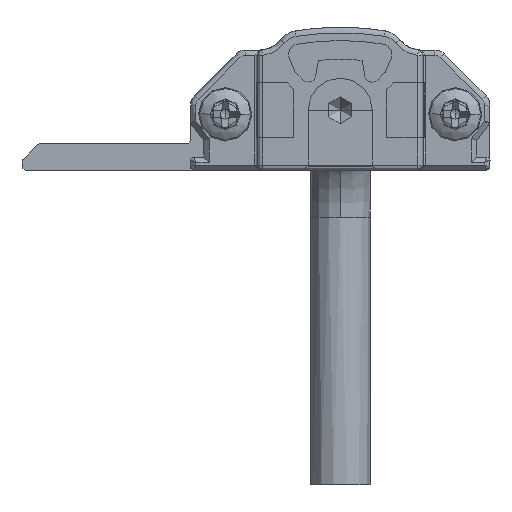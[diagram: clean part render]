
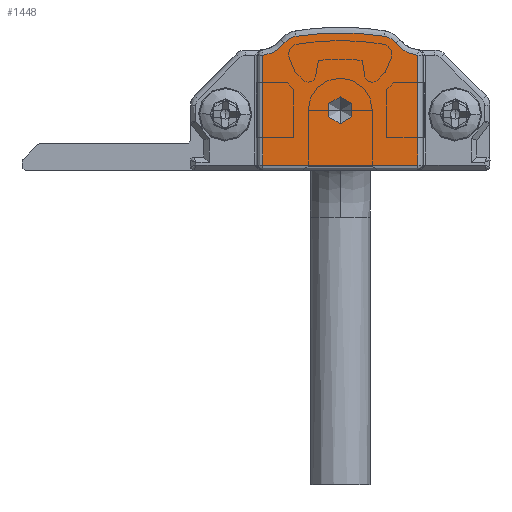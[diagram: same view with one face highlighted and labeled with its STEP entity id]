
A CAD part, front view. The second image highlights one B-rep face of the part: STEP entity #1448.
In plain terms, the highlighted planar face has unit normal (0, -1, 0).
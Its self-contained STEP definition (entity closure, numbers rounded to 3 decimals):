
#844 = VERTEX_POINT ( 'NONE', #20469 ) ;
#900 = CARTESIAN_POINT ( 'NONE',  ( 11.2, -15., 4.5 ) ) ;
#1364 = PLANE ( 'NONE',  #23888 ) ;
#1448 = ADVANCED_FACE ( 'NONE', ( #18206, #5942 ), #1364, .T. ) ;
#1827 = CARTESIAN_POINT ( 'NONE',  ( 5.4, -15., 0.4 ) ) ;
#2181 = CIRCLE ( 'NONE', #15655, 20.676 ) ;
#2867 = DIRECTION ( 'NONE',  ( 0., 0., -1. ) ) ;
#2911 = CARTESIAN_POINT ( 'NONE',  ( 15.332, -15., 9.541 ) ) ;
#3105 = CARTESIAN_POINT ( 'NONE',  ( 11.2, -15., 3.5 ) ) ;
#3145 = DIRECTION ( 'NONE',  ( 0., 0., -1. ) ) ;
#3223 = CARTESIAN_POINT ( 'NONE',  ( 7.892, -15., 10.034 ) ) ;
#3462 = ORIENTED_EDGE ( 'NONE', *, *, #12836, .T. ) ;
#3536 = AXIS2_PLACEMENT_3D ( 'NONE', #15463, #25404, #29779 ) ;
#3817 = CARTESIAN_POINT ( 'NONE',  ( 17., -15., 8.612 ) ) ;
#3879 = AXIS2_PLACEMENT_3D ( 'NONE', #27663, #23493, #18323 ) ;
#5010 = EDGE_CURVE ( 'NONE', #20503, #9175, #17039, .T. ) ;
#5942 = FACE_BOUND ( 'NONE', #6754, .T. ) ;
#6416 = CIRCLE ( 'NONE', #3879, 2.4 ) ;
#6535 = ORIENTED_EDGE ( 'NONE', *, *, #9378, .F. ) ;
#6697 = CARTESIAN_POINT ( 'NONE',  ( 8.1, -15., 8.75 ) ) ;
#6754 = EDGE_LOOP ( 'NONE', ( #8317, #6535 ) ) ;
#7434 = CARTESIAN_POINT ( 'NONE',  ( 17., -15., 0.4 ) ) ;
#8044 = DIRECTION ( 'NONE',  ( 0., 0., -1. ) ) ;
#8317 = ORIENTED_EDGE ( 'NONE', *, *, #5010, .F. ) ;
#8498 = DIRECTION ( 'NONE',  ( 0., -1., 0. ) ) ;
#9120 = CIRCLE ( 'NONE', #3536, 2.4 ) ;
#9175 = VERTEX_POINT ( 'NONE', #24821 ) ;
#9378 = EDGE_CURVE ( 'NONE', #9175, #20503, #23363, .T. ) ;
#9450 = DIRECTION ( 'NONE',  ( 0., -1., 0. ) ) ;
#11531 = VERTEX_POINT ( 'NONE', #18883 ) ;
#11575 = EDGE_CURVE ( 'NONE', #28607, #28270, #28984, .T. ) ;
#11607 = AXIS2_PLACEMENT_3D ( 'NONE', #14850, #9450, #17245 ) ;
#11727 = ORIENTED_EDGE ( 'NONE', *, *, #12073, .T. ) ;
#12021 = VERTEX_POINT ( 'NONE', #22541 ) ;
#12073 = EDGE_CURVE ( 'NONE', #28270, #15700, #9120, .T. ) ;
#12239 = VECTOR ( 'NONE', #31000, 1000. ) ;
#12836 = EDGE_CURVE ( 'NONE', #844, #17905, #27281, .T. ) ;
#14457 = ORIENTED_EDGE ( 'NONE', *, *, #16451, .T. ) ;
#14850 = CARTESIAN_POINT ( 'NONE',  ( 11.2, -15., 4.5 ) ) ;
#15463 = CARTESIAN_POINT ( 'NONE',  ( 5.162, -15., 11. ) ) ;
#15655 = AXIS2_PLACEMENT_3D ( 'NONE', #26525, #19261, #3145 ) ;
#15700 = VERTEX_POINT ( 'NONE', #21117 ) ;
#15895 = VERTEX_POINT ( 'NONE', #2911 ) ;
#16303 = CARTESIAN_POINT ( 'NONE',  ( 22.15, -15., 3.606 ) ) ;
#16451 = EDGE_CURVE ( 'NONE', #15700, #844, #29545, .T. ) ;
#17039 = CIRCLE ( 'NONE', #23234, 1. ) ;
#17181 = DIRECTION ( 'NONE',  ( 0., -1., 0. ) ) ;
#17245 = DIRECTION ( 'NONE',  ( 0., 0., -1. ) ) ;
#17431 = ORIENTED_EDGE ( 'NONE', *, *, #11575, .T. ) ;
#17746 = VECTOR ( 'NONE', #30320, 1000. ) ;
#17905 = VERTEX_POINT ( 'NONE', #30582 ) ;
#18175 = AXIS2_PLACEMENT_3D ( 'NONE', #6697, #17181, #2867 ) ;
#18206 = FACE_OUTER_BOUND ( 'NONE', #22090, .T. ) ;
#18279 = EDGE_CURVE ( 'NONE', #11531, #28607, #2181, .T. ) ;
#18323 = DIRECTION ( 'NONE',  ( 0., 0., -1. ) ) ;
#18393 = CIRCLE ( 'NONE', #28178, 1.3 ) ;
#18883 = CARTESIAN_POINT ( 'NONE',  ( 14.508, -15., 10.034 ) ) ;
#19261 = DIRECTION ( 'NONE',  ( 0., -1., 0. ) ) ;
#19477 = CARTESIAN_POINT ( 'NONE',  ( 14.3, -15., 8.75 ) ) ;
#19583 = EDGE_CURVE ( 'NONE', #12021, #15895, #6416, .T. ) ;
#19911 = ORIENTED_EDGE ( 'NONE', *, *, #22327, .T. ) ;
#20469 = CARTESIAN_POINT ( 'NONE',  ( 5.4, -15., 0.4 ) ) ;
#20503 = VERTEX_POINT ( 'NONE', #3105 ) ;
#21117 = CARTESIAN_POINT ( 'NONE',  ( 5.4, -15., 8.612 ) ) ;
#22090 = EDGE_LOOP ( 'NONE', ( #19911, #25507, #28008, #31143, #17431, #11727, #14457, #3462 ) ) ;
#22327 = EDGE_CURVE ( 'NONE', #17905, #12021, #25856, .T. ) ;
#22541 = CARTESIAN_POINT ( 'NONE',  ( 17., -15., 8.612 ) ) ;
#23234 = AXIS2_PLACEMENT_3D ( 'NONE', #900, #27891, #8044 ) ;
#23363 = CIRCLE ( 'NONE', #11607, 1. ) ;
#23493 = DIRECTION ( 'NONE',  ( 0., 1., 0. ) ) ;
#23836 = DIRECTION ( 'NONE',  ( 0., 0., -1. ) ) ;
#23888 = AXIS2_PLACEMENT_3D ( 'NONE', #16303, #8498, #30900 ) ;
#23976 = VECTOR ( 'NONE', #29539, 1000. ) ;
#24821 = CARTESIAN_POINT ( 'NONE',  ( 11.2, -15., 5.5 ) ) ;
#25135 = CARTESIAN_POINT ( 'NONE',  ( 7.068, -15., 9.541 ) ) ;
#25404 = DIRECTION ( 'NONE',  ( 0., 1., 0. ) ) ;
#25507 = ORIENTED_EDGE ( 'NONE', *, *, #19583, .T. ) ;
#25856 = LINE ( 'NONE', #3817, #12239 ) ;
#26525 = CARTESIAN_POINT ( 'NONE',  ( 11.2, -15., -10.376 ) ) ;
#27281 = LINE ( 'NONE', #7434, #23976 ) ;
#27663 = CARTESIAN_POINT ( 'NONE',  ( 17.238, -15., 11. ) ) ;
#27891 = DIRECTION ( 'NONE',  ( 0., -1., 0. ) ) ;
#28008 = ORIENTED_EDGE ( 'NONE', *, *, #28419, .T. ) ;
#28178 = AXIS2_PLACEMENT_3D ( 'NONE', #19477, #31235, #23836 ) ;
#28270 = VERTEX_POINT ( 'NONE', #25135 ) ;
#28419 = EDGE_CURVE ( 'NONE', #15895, #11531, #18393, .T. ) ;
#28607 = VERTEX_POINT ( 'NONE', #3223 ) ;
#28984 = CIRCLE ( 'NONE', #18175, 1.3 ) ;
#29539 = DIRECTION ( 'NONE',  ( 1., 0., 0. ) ) ;
#29545 = LINE ( 'NONE', #1827, #17746 ) ;
#29779 = DIRECTION ( 'NONE',  ( 0., 0., -1. ) ) ;
#30320 = DIRECTION ( 'NONE',  ( 0., 0., -1. ) ) ;
#30582 = CARTESIAN_POINT ( 'NONE',  ( 17., -15., 0.4 ) ) ;
#30900 = DIRECTION ( 'NONE',  ( 0., 0., -1. ) ) ;
#31000 = DIRECTION ( 'NONE',  ( 0., 0., 1. ) ) ;
#31143 = ORIENTED_EDGE ( 'NONE', *, *, #18279, .T. ) ;
#31235 = DIRECTION ( 'NONE',  ( 0., -1., 0. ) ) ;
